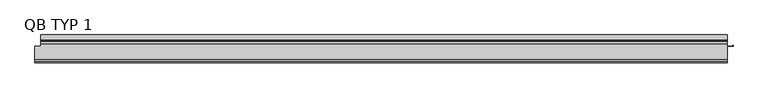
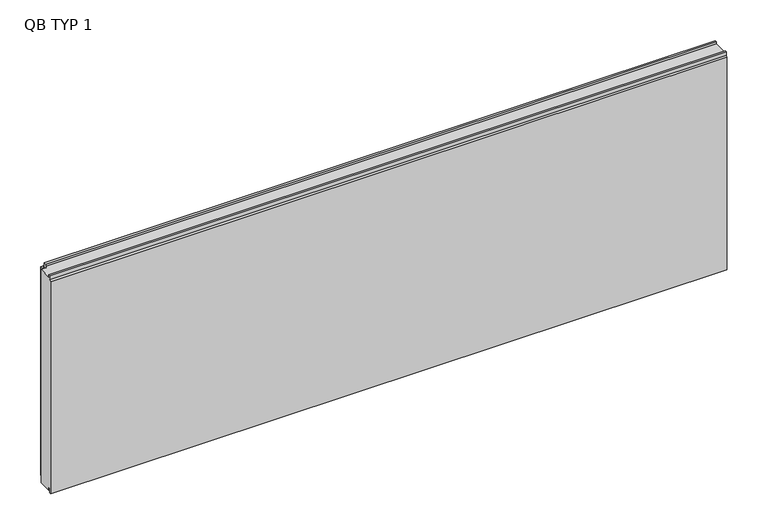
"""IFC4 building model written with IfcOpenShell, lengths in millimetres: plate geometry, TR_C_H_QBISS_Panel : QB TYP 1."""

from ifc_helpers import new_model, si_unit, frame, origin, place, context, project, spatial, polyline, outline, extrude, faceted_brep, source, transform, mapped, element, save


def qb_typ_1_2f4cd647(model_context):
    return source(origin(), model_context, "Body", "SolidModel", [
        extrude(outline(polyline([(1512.5, -49.0), (1487.3, -49.0), (1487.3, -48.2), (1511.7, -48.2), (1511.7, -44.0), (1512.5, -44.0), (1512.5, -49.0)])), frame((0.0, 0.0, 54.0), z_axis=(0.0, 0.0, 1.0), x_axis=(1.0, 0.0, 0.0)), (0.0, 0.0, 1.0), 862.0),
        faceted_brep([(1487.5, -108.0, 1000.0), (1487.5, -108.0, 1010.0), (1487.5, -114.0, 1010.0), (1487.5, -114.0, 992.0), (1487.5, -120.0, 986.0), (1487.5, -120.0, -8.0), (1487.5, -114.0, -8.0), (1487.5, -114.0, 13.0), (1487.5, -108.0, 13.0), (1487.5, -108.0, 0.0), (1487.5, -49.0, 0.0), (1487.5, -49.0, 1000.0), (-1512.4, -108.0, 0.0), (-1512.4, -108.0, 13.0), (-1512.4, -114.0, 13.0), (-1512.4, -114.0, -8.0), (-1512.4, -120.0, -8.0), (-1512.4, -120.0, 986.0), (-1512.4, -114.0, 992.0), (-1512.4, -114.0, 1010.0), (-1512.4, -108.0, 1010.0), (-1512.4, -108.0, 1000.0), (-1512.4, -49.0, 1000.0), (-1512.4, -49.0, 0.0), (-1487.3, -49.0, 0.0), (-1487.3, -39.0, 0.0), (1487.3, -39.0, 0.0), (1487.3, -49.0, 0.0), (-1487.3, -39.0, 13.0), (1487.3, -39.0, 13.0), (-1487.3, -29.0, 13.0), (1487.3, -29.0, 13.0), (-1487.3, -29.0, -4.0), (1487.3, -29.0, -4.0), (-1487.3, 0.0, -4.0), (1487.3, 0.0, -4.0), (-1487.3, 0.0, 973.0), (1487.3, 0.0, 973.0), (-1487.3, -29.0, 973.0), (1487.3, -29.0, 973.0), (-1487.3, -29.0, 1010.0), (1487.3, -29.0, 1010.0), (-1487.3, -39.0, 1010.0), (1487.3, -39.0, 1010.0), (-1487.3, -39.0, 1000.0), (1487.3, -39.0, 1000.0), (1487.3, -49.0, 1000.0), (-1487.3, -49.0, 1000.0)], [[[0, 1, 2, 3, 4, 5, 6, 7, 8, 9, 10, 11]], [[12, 13, 14, 15, 16, 17, 18, 19, 20, 21, 22, 23]], [[9, 12, 23, 24, 25, 26, 27, 10]], [[26, 25, 28, 29]], [[29, 28, 30, 31]], [[31, 30, 32, 33]], [[33, 32, 34, 35]], [[35, 34, 36, 37]], [[37, 36, 38, 39]], [[39, 38, 40, 41]], [[41, 40, 42, 43]], [[43, 42, 44, 45]], [[21, 0, 11, 46, 45, 44, 47, 22]], [[1, 0, 21, 20]], [[2, 1, 20, 19]], [[3, 2, 19, 18]], [[4, 3, 18, 17]], [[5, 4, 17, 16]], [[6, 5, 16, 15]], [[7, 6, 15, 14]], [[8, 7, 14, 13]], [[9, 8, 13, 12]], [[47, 24, 23, 22]], [[24, 47, 44, 42, 40, 38, 36, 34, 32, 30, 28, 25]], [[46, 27, 26, 29, 31, 33, 35, 37, 39, 41, 43, 45]], [[27, 46, 11, 10]]]),
        extrude(outline(polyline([(-24.0, 994.5), (-24.0, 974.5), (-25.4998317, 974.5), (-25.4998317, 981.3023028), (-27.9998293, 981.3023028), (-27.9998293, 980.5023028), (-28.7998428, 980.5023028), (-28.7998428, 988.5023593), (-27.9998293, 988.5023593), (-27.9998293, 987.7023593), (-25.4998317, 987.7023593), (-25.4998317, 994.5), (-24.0, 994.5)])), frame((-1487.3, 0.0, 0.0), z_axis=(1.0, 0.0, 0.0), x_axis=(0.0, 1.0, 0.0)), (0.0, 0.0, 1.0), 2974.6),
    ])


if __name__ == "__main__":
    model = new_model("IFC4")
    model_context = context("Model", 3, world=origin())
    ifc_project = project(units=[si_unit("LENGTHUNIT", "METRE", prefix="MILLI")], contexts=[model_context])
    site = spatial("IfcSite", under=ifc_project)
    building = spatial("IfcBuilding", under=site)
    placement = place(None, origin())
    qb_typ_1_shape = qb_typ_1_2f4cd647(model_context)
    element("IfcPlate", 1, ObjectType="TR_C_H_QBISS_Panel : QB TYP 1", at=placement, inside=building, context=model_context, shape_type="MappedRepresentation", body=[
        mapped(qb_typ_1_shape, transform((0.0, 0.0, 0.0), x_axis=(1.0, 0.0, 0.0), y_axis=(0.0, 1.0, 0.0), z_axis=(0.0, 0.0, 1.0))),
    ])
    save(model, "model.ifc")
